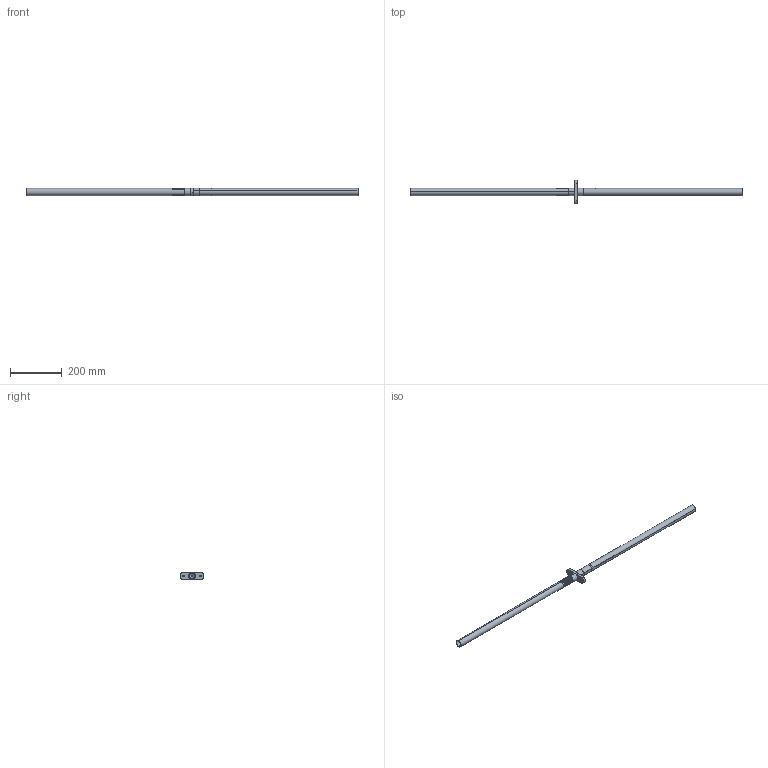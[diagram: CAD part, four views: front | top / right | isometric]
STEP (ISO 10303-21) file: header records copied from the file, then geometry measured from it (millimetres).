
FILE_DESCRIPTION (( 'STEP AP214' ), '1' );
FILE_NAME ('Threaded End Connector to Triple Link Connector to Threaded End Connector Connection.STEP', '2013-08-19T17:06:59', ( 'ydmin' ), ( 'Microsoft' ), 'SwSTEP 2.0', 'SolidWorks 2013', '' );
FILE_SCHEMA (( 'AUTOMOTIVE_DESIGN' ));
Length unit declared in the file: inch
Products named in the file (8): Threaded End Connector to Triple Link Connector to Threaded End Connector Connection; DRP-002-0534-00; Threaded End; DRP-002-0518-00; Flat End; 91990A255 (1)_91990A255; DRP-002-0513-00_FLAT END WITH THREADED HOLE; 6.000 Inch Tube
Assembly tree (8 placements, depth 3):
  Threaded End Connector to Triple Link Connector to Threaded End Connector Connection
    Flat End
      6.000 Inch Tube
      DRP-002-0513-00_FLAT END WITH THREADED HOLE
      91990A255 (1)_91990A255
    Threaded End
      6.000 Inch Tube
      DRP-002-0518-00
    DRP-002-0534-00
Bounding box: 1279.14 x 92.08 x 28.57 mm (x, y, z)
Volume: 172983.2 mm3; surface area: 235157.5 mm2
Topology: 8 solids, 8 shells, 501 faces, 1240 edges, 755 vertices
Faces by surface type: cylinder 228, plane 132, cone 113, bspline 16, torus 10, sphere 2
Entity records: 25797 total; most frequent: CARTESIAN_POINT 10627, DIRECTION 2474, ORIENTED_EDGE 2452, EDGE_CURVE 1226, AXIS2_PLACEMENT_3D 904, VERTEX_POINT 747, LINE 666, VECTOR 666
